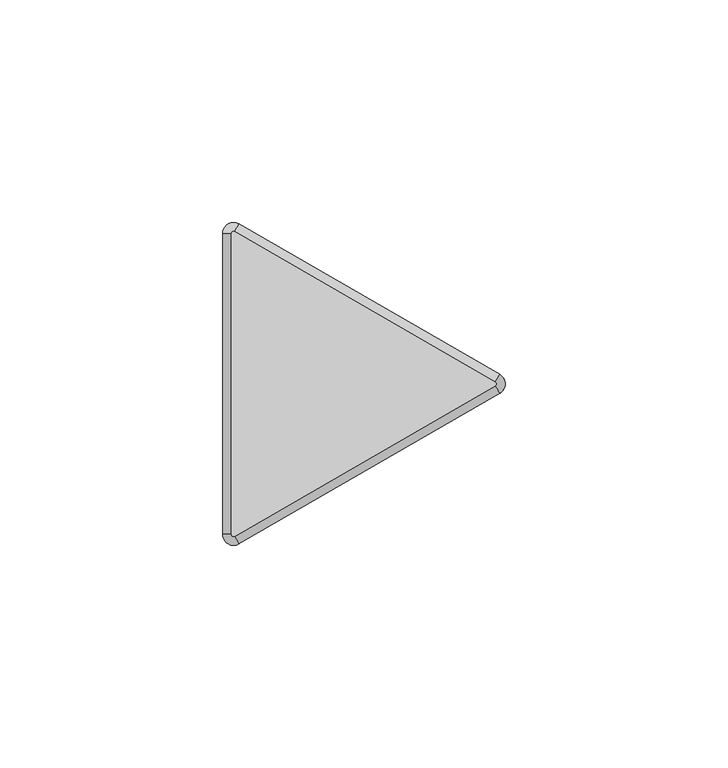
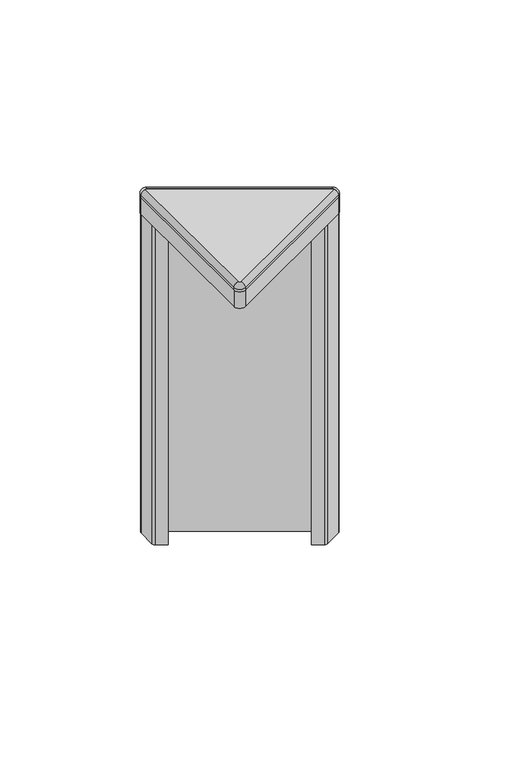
"""IFC4 building model written with IfcOpenShell, lengths in millimetres: furniture geometry, Steelcase - Answer Solution - Panel - 120deg Change-of-Height Trim - Thin : V Corner - 6H for 42H App."""

from ifc_helpers import new_model, si_unit, point, frame, frame_2d, origin, place, context, project, spatial, polyline, circle_curve, ellipse_curve, trimmed, segment, composite_curve, outline, extrude, source, transform, mapped, element, save
from ifc_brep_helpers import plane_surface, cylinder_surface, revolved_surface, advanced_brep


def furniture_0a2595c5(model_context):
    return source(origin(), model_context, "Body", "SolidModel", [
        advanced_brep(
        [(-10.518645, -37.3335529, 1071.2628978), (-14.2052101, -35.2051135, 1071.2628978), (-14.2052101, -35.2051135, 1070.3164663), (-10.518645, -37.3335529, 1070.3164663), (-11.46175, -35.7000471, 1073.15), (-12.319, -35.2051135, 1073.15), (-11.46175, -35.7000471, 1070.3164663), (-12.319, -35.2051135, 1070.3164663), (48.0429908, -3.5229767, 1070.3164663), (48.0429908, -3.5229767, 1071.2628978), (47.0998858, -1.8894709, 1073.15), (47.0998858, -1.8894709, 1070.3164663), (48.0429908, 0.733902, 1071.2628978), (48.0429908, 0.733902, 1070.3164663), (47.0998858, -0.8996038, 1073.15), (47.0998858, -0.8996038, 1070.3164663), (-10.518645, 34.5444782, 1070.3164663), (-14.2052101, 32.4160388, 1070.3164663), (-11.46175, 32.9109723, 1070.3164663), (-12.319, 32.4160388, 1070.3164663), (-10.518645, 34.5444782, 1071.2628978), (-11.46175, 32.9109723, 1073.15), (-14.2052101, 32.4160388, 1071.2628978), (-12.319, 32.4160388, 1073.15)],
        [
            (0, 1, circle_curve(frame((-11.7475, -35.2051135, 1071.2628978), z_axis=(0.0, 0.0, -1.0), x_axis=(-1.0, 0.0, 0.0)), 2.4577101)),
            (1, 2),
            (2, 3, circle_curve(frame((-11.7475, -35.2051135, 1070.3164663), z_axis=(0.0, 0.0, 1.0), x_axis=(-1.0, 0.0, 0.0)), 2.4577101)),
            (3, 0),
            (4, 5, circle_curve(frame((-11.7475, -35.2051135, 1073.15), z_axis=(0.0, 0.0, -1.0), x_axis=(-1.0, 0.0, 0.0)), 0.5715)),
            (5, 1, circle_curve(frame((-12.3181076, -35.2051135, 1071.2628978), z_axis=(0.0, -1.0, 0.0), x_axis=(1.0, 0.0, 0.0)), 1.8871024)),
            (0, 4, circle_curve(frame((-11.4621962, -35.6992743, 1071.2628978), z_axis=(-0.8660254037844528, -0.49999999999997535, 0.0), x_axis=(-0.49999999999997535, 0.8660254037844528, 0.0)), 1.8871024)),
            (6, 7, circle_curve(frame((-11.7475, -35.2051135, 1070.3164663), z_axis=(0.0, 0.0, -1.0), x_axis=(-1.0, 0.0, 0.0)), 0.5715)),
            (7, 5),
            (4, 6),
            (3, 8),
            (8, 9),
            (9, 0),
            (9, 10, circle_curve(frame((47.0994396, -1.8886981, 1071.2628978), z_axis=(-0.8660254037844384, -0.5000000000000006, 0.0), x_axis=(-0.5000000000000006, 0.8660254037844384, 0.0)), 1.8871024)),
            (10, 4),
            (10, 11),
            (11, 6),
            (12, 9, circle_curve(frame((46.8141358, -1.3945374, 1071.2628978), z_axis=(0.0, 0.0, -1.0), x_axis=(0.4999999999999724, -0.8660254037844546, 0.0)), 2.4577101)),
            (8, 13, circle_curve(frame((46.8141358, -1.3945374, 1070.3164663), z_axis=(0.0, 0.0, 1.0), x_axis=(0.4999999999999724, -0.8660254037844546, 0.0)), 2.4577101)),
            (13, 12),
            (14, 10, circle_curve(frame((46.8141358, -1.3945374, 1073.15), z_axis=(0.0, 0.0, -1.0), x_axis=(0.4999999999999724, -0.8660254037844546, 0.0)), 0.5715)),
            (12, 14, circle_curve(frame((47.0994396, -0.9003766, 1071.2628978), z_axis=(0.866025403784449, -0.499999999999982, 0.0), x_axis=(-0.499999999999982, -0.866025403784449, 0.0)), 1.8871024)),
            (15, 11, circle_curve(frame((46.8141358, -1.3945374, 1070.3164663), z_axis=(0.0, 0.0, -1.0), x_axis=(0.4999999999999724, -0.8660254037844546, 0.0)), 0.5715)),
            (14, 15),
            (16, 13),
            (2, 17),
            (17, 16, circle_curve(frame((-11.7475, 32.4160388, 1070.3164663), z_axis=(0.0, 0.0, -1.0), x_axis=(0.500000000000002, 0.8660254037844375, 0.0)), 2.4577101)),
            (15, 18),
            (18, 19, circle_curve(frame((-11.7475, 32.4160388, 1070.3164663), z_axis=(0.0, 0.0, 1.0), x_axis=(0.500000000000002, 0.8660254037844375, 0.0)), 0.5715)),
            (19, 7),
            (16, 20),
            (20, 12),
            (20, 21, circle_curve(frame((-11.4621962, 32.9101995, 1071.2628978), z_axis=(0.8660254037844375, -0.5000000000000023, 0.0), x_axis=(-0.5000000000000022, -0.8660254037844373, 0.0)), 1.8871024)),
            (21, 14),
            (21, 18),
            (22, 20, circle_curve(frame((-11.7475, 32.4160388, 1071.2628978), z_axis=(0.0, 0.0, -1.0), x_axis=(0.500000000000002, 0.8660254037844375, 0.0)), 2.4577101)),
            (17, 22),
            (23, 21, circle_curve(frame((-11.7475, 32.4160388, 1073.15), z_axis=(0.0, 0.0, -1.0), x_axis=(0.500000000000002, 0.8660254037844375, 0.0)), 0.5715)),
            (22, 23, circle_curve(frame((-12.3181076, 32.4160388, 1071.2628978), z_axis=(0.0, 1.0, 0.0), x_axis=(1.0, 0.0, 0.0)), 1.8871024)),
            (23, 19),
            (1, 22),
            (5, 23),
        ],
        [
            cylinder_surface(frame((-11.7475, -35.2051135, 0.0), z_axis=(0.0, 0.0, 1.0), x_axis=(-1.0, 0.0, 0.0)), 2.4577101),
            revolved_surface(trimmed(ellipse_curve(frame((-12.3181076, -35.2051135, 1071.2628978), z_axis=(0.0, 1.0, 0.0), x_axis=(1.0, 0.0, 0.0)), 1.8871024, 1.8871024), [point((-14.2052101, -35.2051135, 1071.2628978))], [point((-12.319, -35.2051135, 1073.15))], True, "CARTESIAN"), (-11.7475, -35.2051135, 0.0), (0.0, 0.0, 1.0)),
            revolved_surface(polyline([(-12.319, -35.2051135, 1073.15), (-12.319, -35.2051135, 1070.3164663)]), (-11.7475, -35.2051135, 0.0), (0.0, 0.0, 1.0)),
            plane_surface(frame((-10.518645, -37.3335529, 1070.3164663), z_axis=(0.500000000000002, -0.8660254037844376, 0.0), x_axis=(0.8660254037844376, 0.500000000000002, 0.0))),
            cylinder_surface(frame((-11.4621962, -35.6992743, 1071.2628978), z_axis=(-0.8660254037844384, -0.5000000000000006, 0.0), x_axis=(-0.5000000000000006, 0.8660254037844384, 0.0)), 1.8871024),
            plane_surface(frame((-11.46175, -35.7000471, 1073.15), z_axis=(-0.5000000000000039, 0.8660254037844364, 0.0), x_axis=(0.8660254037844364, 0.5000000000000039, 0.0))),
            cylinder_surface(frame((46.8141358, -1.3945374, 0.0), z_axis=(0.0, 0.0, 1.0), x_axis=(0.4999999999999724, -0.8660254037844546, 0.0)), 2.4577101),
            revolved_surface(trimmed(ellipse_curve(frame((47.0994396, -1.8886981, 1071.2628978), z_axis=(-0.8660254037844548, -0.499999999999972, 0.0), x_axis=(-0.499999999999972, 0.8660254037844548, 0.0)), 1.8871024, 1.8871024), [point((48.0429908, -3.5229767, 1071.2628978))], [point((47.0998858, -1.8894709, 1073.15))], True, "CARTESIAN"), (46.8141358, -1.3945374, 0.0), (0.0, 0.0, 1.0)),
            revolved_surface(polyline([(47.09988579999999, -1.8894709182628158, 1073.15), (47.09988579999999, -1.8894709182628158, 1070.3164663)]), (46.8141358, -1.3945374, 0.0), (0.0, 0.0, 1.0)),
            plane_surface(frame((47.0998858, -0.8996038, 1070.3164663), z_axis=(0.0, 0.0, -1.0), x_axis=(-0.8660254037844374, 0.5000000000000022, 0.0))),
            plane_surface(frame((48.0429908, 0.733902, 1070.3164663), z_axis=(0.5000000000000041, 0.8660254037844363, 0.0), x_axis=(-0.8660254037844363, 0.5000000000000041, 0.0))),
            cylinder_surface(frame((47.0994396, -0.9003766, 1071.2628978), z_axis=(0.8660254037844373, -0.5000000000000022, 0.0), x_axis=(-0.5000000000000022, -0.8660254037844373, 0.0)), 1.8871024),
            plane_surface(frame((47.0998858, -0.8996038, 1073.15), z_axis=(-0.5000000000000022, -0.8660254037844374, 0.0), x_axis=(-0.8660254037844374, 0.5000000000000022, 0.0))),
            cylinder_surface(frame((-11.7475, 32.4160388, 0.0), z_axis=(0.0, 0.0, 1.0), x_axis=(0.500000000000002, 0.8660254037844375, 0.0)), 2.4577101),
            revolved_surface(trimmed(ellipse_curve(frame((-11.4621962, 32.9101995, 1071.2628978), z_axis=(0.866025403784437, -0.5000000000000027, 0.0), x_axis=(-0.5000000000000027, -0.866025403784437, 0.0)), 1.8871024, 1.8871024), [point((-10.518645, 34.5444782, 1071.2628978))], [point((-11.46175, 32.9109723, 1073.15))], True, "CARTESIAN"), (-11.7475, 32.4160388, 0.0), (0.0, 0.0, 1.0)),
            revolved_surface(polyline([(-11.461749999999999, 32.91097231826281, 1073.15), (-11.461749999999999, 32.91097231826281, 1070.3164663)]), (-11.7475, 32.4160388, 0.0), (0.0, 0.0, 1.0)),
            plane_surface(frame((-14.2052101, 32.4160388, 1070.3164663), z_axis=(-1.0, 0.0, 0.0), x_axis=(0.0, -1.0, 0.0))),
            cylinder_surface(frame((-12.3181076, 32.4160388, 1071.2628978), z_axis=(0.0, 1.0, 0.0), x_axis=(1.0, 0.0, 0.0)), 1.8871024),
            plane_surface(frame((-12.319, 32.4160388, 1073.15), z_axis=(1.0, 0.0, 0.0), x_axis=(0.0, -1.0, 0.0))),
        ],
        [
            (0, [[1, 2, 3, 4]]),
            (1, [[5, 6, -1, 7]]),
            (2, [[8, 9, -5, 10]]),
            (3, [[-4, 11, 12, 13]]),
            (4, [[-7, -13, 14, 15]]),
            (5, [[-10, -15, 16, 17]]),
            (6, [[18, -12, 19, 20]]),
            (7, [[21, -14, -18, 22]]),
            (8, [[23, -16, -21, 24]]),
            (9, [[25, -19, -11, -3, 26, 27], [-8, -17, -23, 28, 29, 30]]),
            (10, [[-20, -25, 31, 32]]),
            (11, [[-22, -32, 33, 34]]),
            (12, [[-24, -34, 35, -28]]),
            (13, [[36, -31, -27, 37]]),
            (14, [[38, -33, -36, 39]]),
            (15, [[-29, -35, -38, 40]]),
            (16, [[-37, -26, -2, 41]]),
            (17, [[-39, -41, -6, 42]]),
            (18, [[-40, -42, -9, -30]]),
        ],
    ),
        extrude(outline(composite_curve([segment(trimmed(circle_curve(frame_2d((46.8261011, -1.3945374)), 0.5655173), [point((47.1088598, -0.904785))], [point((47.1088598, -1.8842897))], False, "CARTESIAN"), True, "CONTINUOUS"), segment(polyline([(47.1088598, -1.8842897), (-11.4505119, -35.6935587)]), True, "CONTINUOUS"), segment(trimmed(circle_curve(frame_2d((-11.7400079, -35.1921369)), 0.5789921), [point((-11.4505119, -35.6935587))], [point((-12.319, -35.1921369))], False, "CARTESIAN"), True, "CONTINUOUS"), segment(polyline([(-12.319, -35.1921369), (-12.319, 32.3985888)]), True, "CONTINUOUS"), segment(trimmed(circle_curve(frame_2d((-11.7374252, 32.3985888)), 0.5815748), [point((-12.319, 32.3985888))], [point((-11.4466378, 32.9022473))], False, "CARTESIAN"), True, "CONTINUOUS"), segment(polyline([(-11.4466378, 32.9022473), (47.1088598, -0.904785)]), True, "CONTINUOUS")], self_intersect=False)), frame((0.0, 0.0, 1070.3164663), z_axis=(0.0, 0.0, 1.0), x_axis=(1.0, 0.0, 0.0)), (0.0, 0.0, 1.0), 2.8335337),
        extrude(outline(composite_curve([segment(trimmed(circle_curve(frame_2d((47.9608454, -1.3945374)), 1.2935425), [point((48.6076166, -0.2742967))], [point((48.6076166, -2.514778))], False, "CARTESIAN"), True, "CONTINUOUS"), segment(polyline([(48.6076166, -2.514778), (41.722656, -6.4898119)]), True, "CONTINUOUS"), segment(trimmed(circle_curve(frame_2d((41.0991304, -5.4098338)), 1.2470513), [point((41.722656, -6.4898119))], [point((40.4756048, -6.4898119))], False, "CARTESIAN"), True, "CONTINUOUS"), segment(polyline([(40.4756048, -6.4898119), (36.3239304, -4.0928416), (36.7811304, -3.300948), (41.0991304, -5.7939464), (47.3502407, -2.1848662)]), True, "CONTINUOUS"), segment(trimmed(circle_curve(frame_2d((46.8939441, -1.3945374)), 0.9125932), [point((47.3502407, -2.1848662))], [point((47.3502407, -0.6042085))], True, "CARTESIAN"), True, "CONTINUOUS"), segment(polyline([(47.3502407, -0.6042085), (-11.3312768, 33.2755814)]), True, "CONTINUOUS"), segment(trimmed(circle_curve(frame_2d((-11.7875179, 32.4853487)), 0.9124821), [point((-11.3312768, 33.2755814))], [point((-12.7, 32.4853487))], True, "CARTESIAN"), True, "CONTINUOUS"), segment(polyline([(-12.7, 32.4853487), (-12.7, 25.266996), (-8.382, 22.7739975), (-8.8392, 21.9821039), (-12.9583282, 24.3602837)]), True, "CONTINUOUS"), segment(trimmed(circle_curve(frame_2d((-12.3022565, 25.4966333)), 1.3121435), [point((-12.9583282, 24.3602837))], [point((-13.6144, 25.4966333))], False, "CARTESIAN"), True, "CONTINUOUS"), segment(polyline([(-13.6144, 25.4966333), (-13.6144, 33.3957138)]), True, "CONTINUOUS"), segment(trimmed(circle_curve(frame_2d((-12.3131174, 33.3957138)), 1.3012826), [point((-13.6144, 33.3957138))], [point((-11.6624761, 34.5226576))], False, "CARTESIAN"), True, "CONTINUOUS"), segment(polyline([(-11.6624761, 34.5226576), (48.6076166, -0.2742967)]), True, "CONTINUOUS")], self_intersect=False)), frame((0.0, 0.0, 920.75), z_axis=(0.0, 0.0, 1.0), x_axis=(1.0, 0.0, 0.0)), (0.0, 0.0, 1.0), 142.24),
        extrude(outline(composite_curve([segment(trimmed(circle_curve(frame_2d((46.8140443, -1.3945374)), 2.4577558), [point((48.0429222, 0.7339416))], [point((48.0429222, -3.5230163))], False, "CARTESIAN"), True, "CONTINUOUS"), segment(polyline([(48.0429222, -3.5230163), (-10.518058, -37.333214)]), True, "CONTINUOUS"), segment(trimmed(circle_curve(frame_2d((-11.7471087, -35.2044357)), 2.4581014), [point((-10.518058, -37.333214))], [point((-14.2052101, -35.2044357))], False, "CARTESIAN"), True, "CONTINUOUS"), segment(polyline([(-14.2052101, -35.2044357), (-14.2052101, 32.4160388)]), True, "CONTINUOUS"), segment(trimmed(circle_curve(frame_2d((-11.7475, 32.4160388)), 2.4577101), [point((-14.2052101, 32.4160388))], [point((-10.518645, 34.5444782))], False, "CARTESIAN"), True, "CONTINUOUS"), segment(polyline([(-10.518645, 34.5444782), (48.0429222, 0.7339416)]), True, "CONTINUOUS")], self_intersect=False)), frame((0.0, 0.0, 1062.99), z_axis=(0.0, 0.0, 1.0), x_axis=(1.0, 0.0, 0.0)), (0.0, 0.0, 1.0), 7.3264663),
    ])


if __name__ == "__main__":
    model = new_model("IFC4")
    model_context = context("Model", 3, world=origin())
    ifc_project = project(units=[si_unit("LENGTHUNIT", "METRE", prefix="MILLI")], contexts=[model_context])
    site = spatial("IfcSite", under=ifc_project)
    building = spatial("IfcBuilding", under=site)
    placement = place(None, origin())
    furniture_shape = furniture_0a2595c5(model_context)
    element("IfcFurniture", 1, ObjectType="Steelcase - Answer Solution - Panel - 120deg Change-of-Height Trim - Thin : V Corner - 6H for 42H App", at=placement, inside=building, context=model_context, shape_type="MappedRepresentation", body=[
        mapped(furniture_shape, transform((0.0, 0.0, 0.0), x_axis=(1.0, 0.0, 0.0), y_axis=(0.0, 1.0, 0.0), z_axis=(0.0, 0.0, 1.0))),
    ])
    save(model, "model.ifc")
